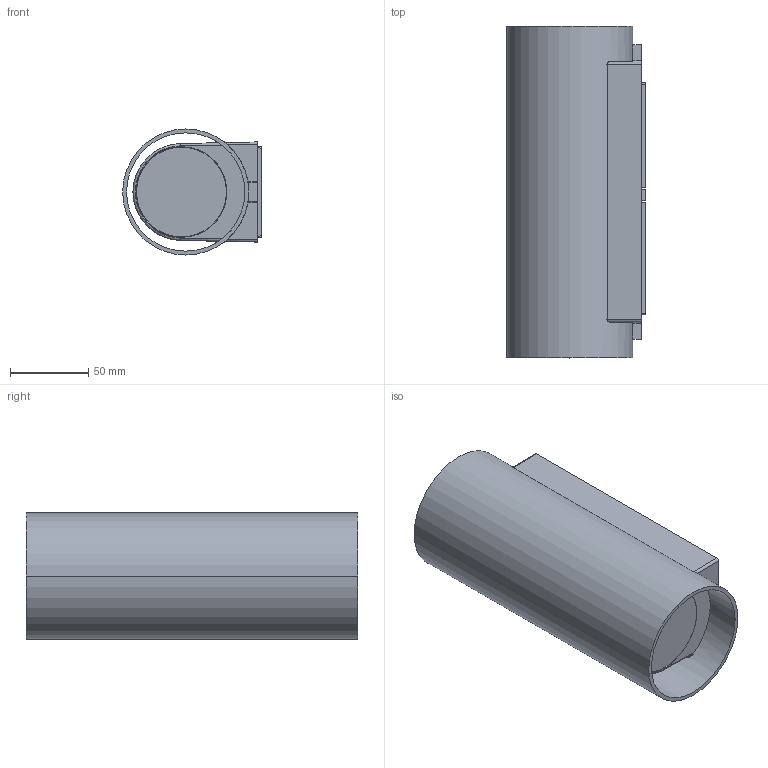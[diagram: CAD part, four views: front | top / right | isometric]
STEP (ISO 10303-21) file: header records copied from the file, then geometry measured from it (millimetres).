
FILE_DESCRIPTION(/* description */ (''),/* implementation_level */ '2;1');
FILE_NAME(/* name */ 'kov_2l_round_walllamp.step',/* time_stamp */ '2025-02-20T10:19:25+01:00',/* author */ ('RenataManzini'),/* organization */ (''),/* preprocessor_version */ 'ST-DEVELOPER v20',/* originating_system */ 'AutoCAD Mechanical',/* authorisation */ '');
FILE_SCHEMA (('AUTOMOTIVE_DESIGN { 1 0 10303 214 3 1 1 }'));
Products named in the file (14): Product; Q1260-ASM_ASM; Q1260; G0642; M4X08PINGTOULUOSI6J; M5X8JIMILUOSI; F0534; Q1261; Y04-0012; M0733; I0501A; HKY0B14D316YGL3_1; HKY0B14D316YGL3_2; HKY0B14D316YGL3_4
Assembly tree (20 placements, depth 3):
  Product
    Q1260-ASM_ASM
      Q1260
      G0642  x2
      M4X08PINGTOULUOSI6J  x2
      M5X8JIMILUOSI  x2
      F0534
    Q1261
    Y04-0012  x2
    M0733
    I0501A
    HKY0B14D316YGL3_1  x2
    HKY0B14D316YGL3_2  x2
    HKY0B14D316YGL3_4  x2
Bounding box: 88.6 x 212 x 80.6 mm (x, y, z)
Volume: 391089.3 mm3; surface area: 260019.6 mm2
Topology: 19 solids, 41 shells, 2083 faces, 5651 edges, 3593 vertices
Faces by surface type: plane 994, cylinder 398, cone 305, bspline 270, torus 80, sphere 36
Entity records: 61556 total; most frequent: CARTESIAN_POINT 25793, ORIENTED_EDGE 7656, DIRECTION 6953, EDGE_CURVE 3869, VERTEX_POINT 2497, AXIS2_PLACEMENT_3D 2356, LINE 2241, VECTOR 2241
